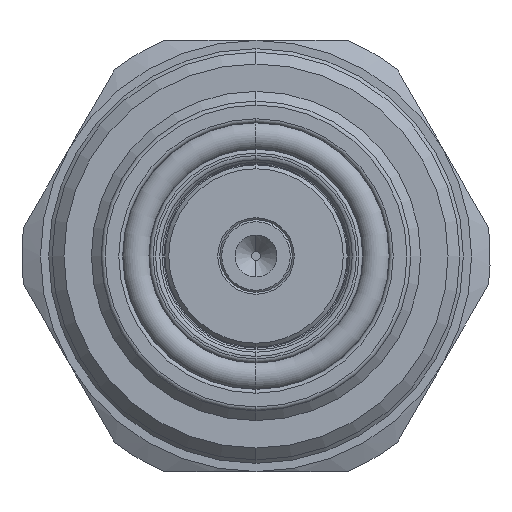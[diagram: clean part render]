
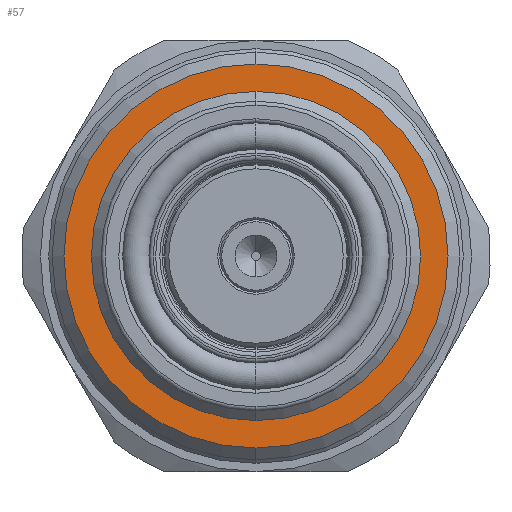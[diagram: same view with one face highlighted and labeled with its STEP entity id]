
A CAD part, left-side view. The second image highlights one B-rep face of the part: STEP entity #57.
In plain terms, the highlighted planar face has unit normal (-1, 0, 0).
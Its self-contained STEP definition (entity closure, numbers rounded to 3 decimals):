
#57 = ADVANCED_FACE ( 'NONE', ( #4999, #5006 ), #2731, .F. ) ;
#150 = EDGE_LOOP ( 'NONE', ( #2948, #2959 ) ) ;
#158 = EDGE_LOOP ( 'NONE', ( #2962, #2994 ) ) ;
#657 = VERTEX_POINT ( 'NONE', #1936 ) ;
#679 = VERTEX_POINT ( 'NONE', #2000 ) ;
#686 = VERTEX_POINT ( 'NONE', #1974 ) ;
#705 = VERTEX_POINT ( 'NONE', #2008 ) ;
#821 = DIRECTION ( 'NONE',  ( 0., 0., 1. ) ) ;
#828 = CARTESIAN_POINT ( 'NONE',  ( -2.883, 0., 0. ) ) ;
#830 = DIRECTION ( 'NONE',  ( -1., 0., 0. ) ) ;
#1060 = CARTESIAN_POINT ( 'NONE',  ( -2.883, 0., 0. ) ) ;
#1061 = DIRECTION ( 'NONE',  ( -1., 0., 0. ) ) ;
#1067 = DIRECTION ( 'NONE',  ( 0., 0., 1. ) ) ;
#1936 = CARTESIAN_POINT ( 'NONE',  ( -2.883, 0., 8.4 ) ) ;
#1974 = CARTESIAN_POINT ( 'NONE',  ( -2.883, 0., -8.4 ) ) ;
#2000 = CARTESIAN_POINT ( 'NONE',  ( -2.883, 0., -9.8 ) ) ;
#2008 = CARTESIAN_POINT ( 'NONE',  ( -2.883, 0., 9.8 ) ) ;
#2143 = DIRECTION ( 'NONE',  ( 0., 0., 1. ) ) ;
#2157 = CARTESIAN_POINT ( 'NONE',  ( -2.883, 0., 0. ) ) ;
#2160 = DIRECTION ( 'NONE',  ( -1., 0., 0. ) ) ;
#2261 = CARTESIAN_POINT ( 'NONE',  ( -2.883, 0., 0. ) ) ;
#2266 = DIRECTION ( 'NONE',  ( -1., 0., 0. ) ) ;
#2276 = DIRECTION ( 'NONE',  ( 0., 0., 1. ) ) ;
#2714 = CARTESIAN_POINT ( 'NONE',  ( -2.883, 0., 0. ) ) ;
#2720 = DIRECTION ( 'NONE',  ( 0., 0., -1. ) ) ;
#2731 = PLANE ( 'NONE',  #5383 ) ;
#2742 = DIRECTION ( 'NONE',  ( 1., 0., 0. ) ) ;
#2948 = ORIENTED_EDGE ( 'NONE', *, *, #5539, .F. ) ;
#2959 = ORIENTED_EDGE ( 'NONE', *, *, #4333, .F. ) ;
#2962 = ORIENTED_EDGE ( 'NONE', *, *, #5442, .T. ) ;
#2994 = ORIENTED_EDGE ( 'NONE', *, *, #4361, .T. ) ;
#3361 = CIRCLE ( 'NONE', #5172, 8.4 ) ;
#3447 = CIRCLE ( 'NONE', #4043, 9.8 ) ;
#3603 = CIRCLE ( 'NONE', #3905, 8.4 ) ;
#3634 = CIRCLE ( 'NONE', #3977, 9.8 ) ;
#3905 = AXIS2_PLACEMENT_3D ( 'NONE', #2157, #2160, #2143 ) ;
#3977 = AXIS2_PLACEMENT_3D ( 'NONE', #2261, #2266, #2276 ) ;
#4043 = AXIS2_PLACEMENT_3D ( 'NONE', #828, #830, #821 ) ;
#4333 = EDGE_CURVE ( 'NONE', #657, #686, #3603, .T. ) ;
#4361 = EDGE_CURVE ( 'NONE', #705, #679, #3634, .T. ) ;
#4999 = FACE_BOUND ( 'NONE', #150, .T. ) ;
#5006 = FACE_OUTER_BOUND ( 'NONE', #158, .T. ) ;
#5172 = AXIS2_PLACEMENT_3D ( 'NONE', #1060, #1061, #1067 ) ;
#5383 = AXIS2_PLACEMENT_3D ( 'NONE', #2714, #2742, #2720 ) ;
#5442 = EDGE_CURVE ( 'NONE', #679, #705, #3447, .T. ) ;
#5539 = EDGE_CURVE ( 'NONE', #686, #657, #3361, .T. ) ;
